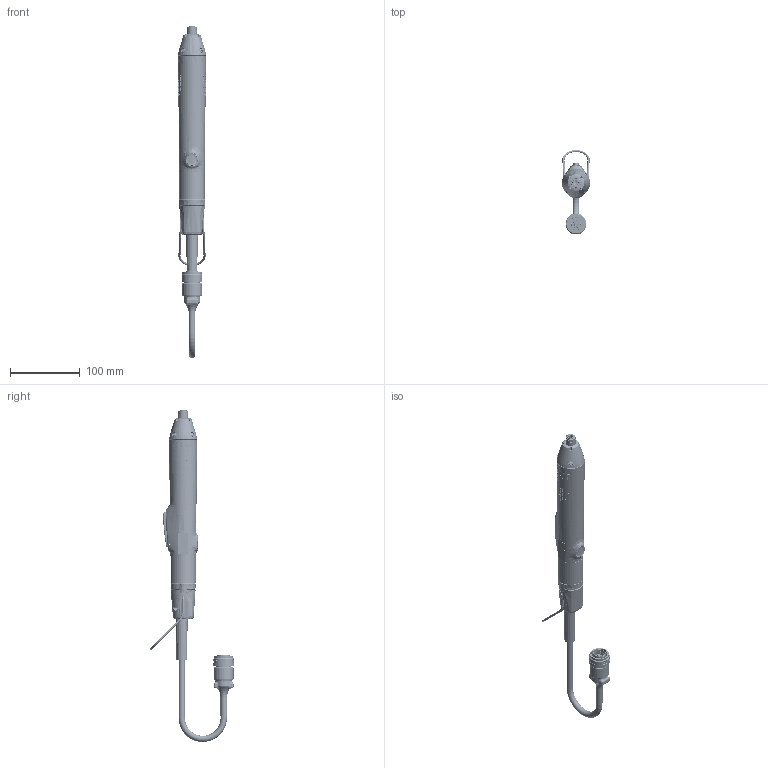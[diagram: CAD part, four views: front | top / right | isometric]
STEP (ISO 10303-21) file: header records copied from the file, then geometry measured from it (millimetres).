
FILE_DESCRIPTION((''),'2;1');
FILE_NAME('6151656890_ASM','2011-01-28T',('GREPH'),(''),'PRO/ENGINEER BY PARAMETRIC TECHNOLOGY CORPORATION, 2010330','PRO/ENGINEER BY PARAMETRIC TECHNOLOGY CORPORATION, 2010330','');
FILE_SCHEMA(('AUTOMOTIVE_DESIGN_CC2 { 1 2 10303 214 -1 1 5 2 }'));
Products named in the file (32): 6155961650; 6153942780_ASM; 6155653571; BE23262; 6155653570_ASM; 6153100551; 6153100550_ASM; 6153100540; 6153969870_ASM; 6158729940; 6153969480_ASM; 6155653690; 6153969510_ASM; 6155801750; 443763; 2050443613; 6153969730_ASM; 6153969500_ASM; 6156100830; 6155653590; 6153969490_ASM; 6155653600; 6155953210; 6159175311; CONNECTEUR12PTS_ECS; 6159160240; 6159175320_ASM; 6155653580; 6156161270; 6158728700; 2050495373; 6151656890_ASM
Assembly tree (35 placements, depth 4):
  6151656890_ASM
    6153942780_ASM
      6155961650
    6153969480_ASM
      6155653570_ASM
        6155653571
        BE23262
      6153100550_ASM
        6153100551
      6153969870_ASM
        6153100540
      6158729940
    6153969510_ASM
      6155653690
    6153969500_ASM
      6153969730_ASM
        6155801750
        443763
        2050443613
    6156100830  x4
    6153969490_ASM
      6155653590
    6155653600
    6159175320_ASM
      6155953210
      6159175311
      CONNECTEUR12PTS_ECS
      6159160240
    6155653580
    6156161270  x2
    6158728700
    2050495373
Bounding box: 40.4 x 120.13 x 474.5 mm (x, y, z)
Volume: 155819 mm3; surface area: 162001.9 mm2
Topology: 27 solids, 64 shells, 8640 faces, 22384 edges, 14178 vertices
Faces by surface type: plane 3610, cylinder 1776, extrusion 1002, bspline 858, cone 846, torus 323, revolution 156, sphere 69
Entity records: 358842 total; most frequent: CARTESIAN_POINT 116623, ORIENTED_EDGE 43930, DIRECTION 33361, EDGE_CURVE 22007, VERTEX_POINT 13982, PRESENTATION_STYLE_ASSIGNMENT 13957, STYLED_ITEM 13408, CURVE_STYLE 12330
